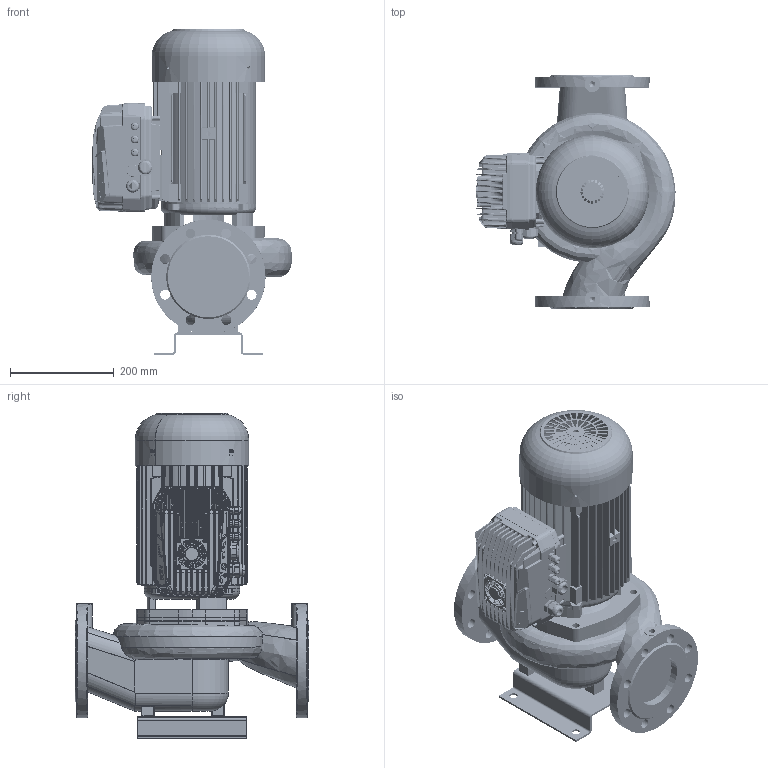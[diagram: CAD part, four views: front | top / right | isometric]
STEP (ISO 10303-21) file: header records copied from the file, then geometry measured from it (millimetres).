
FILE_DESCRIPTION(('STEP AP214'),'1');
FILE_NAME('export.stp','2022-09-07T07:03:24',(' '),(' '),'Spatial InterOp 3D',' ',' ');
FILE_SCHEMA(('AUTOMOTIVE_DESIGN { 1 0 10303 214 1 1 1 1 }'));
Length unit declared in the file: millimetre
Products named in the file (37): W_AL11022MD_KP112; V_TLL65AB80A1102; V_JALKA35973; V_PPAL1102; 440017; 440016; V_MKP112F19; 440015___; 440018; 440021; 480022; 480020; 480023; M25_Blind_Plug; M25_tiivisteholkk; MIDA_180deg; BASE_MIDA_NASTEC_89; 3005020100_AF0_157; PRT0001; PRT0002; PRT0003; PRT0005; PRT0006; PRT0007; V4-25--_-_U7687_PZ_AF0_5; V4-25--_-_U7687_PZ_AF1_5; V4-25--_-_U7687_PZ_AF2_5; V4-25--_-_U7687_PZ_AF3_5; V5-30--_-_U7687_PZ_AF0_5; V5-30--_-_U7687_PZ_AF1_5; V5-30--_-_U7687_PZ_AF2_5; V5-30--_-_U7687_PZ_5; 2001300200_32; TASTIERA_MIDA_2_44; ETICHETTA_MIDA_9; TAPPO_PRESSACAVO_M20_5; Mida205
Assembly tree (36 placements, depth 4):
  W_AL11022MD_KP112
    V_TLL65AB80A1102
    V_JALKA35973
    V_PPAL1102
    V_MKP112F19
      440017
        440016
      440015___
      440018
      440021
      480022
      480020
      480023
      M25_Blind_Plug
      M25_tiivisteholkk
    Mida205
      MIDA_180deg
        BASE_MIDA_NASTEC_89
        3005020100_AF0_157
        PRT0001
        PRT0002
        PRT0003
        PRT0005
        PRT0006
        PRT0007
        V4-25--_-_U7687_PZ_AF0_5
        V4-25--_-_U7687_PZ_AF1_5
        V4-25--_-_U7687_PZ_AF2_5
        V4-25--_-_U7687_PZ_AF3_5
        V5-30--_-_U7687_PZ_AF0_5
        V5-30--_-_U7687_PZ_AF1_5
        V5-30--_-_U7687_PZ_AF2_5
        V5-30--_-_U7687_PZ_5
        2001300200_32
        TASTIERA_MIDA_2_44
        ETICHETTA_MIDA_9
        TAPPO_PRESSACAVO_M20_5
Bounding box: 383 x 450 x 626.2 mm (x, y, z)
Volume: 3651402.3 mm3; surface area: 2744378.1 mm2
Topology: 31 solids, 32 shells, 5595 faces, 14820 edges, 9293 vertices
Faces by surface type: cylinder 2104, plane 1821, bspline 1154, cone 399, torus 109, offset 8
Entity records: 309789 total; most frequent: CARTESIAN_POINT 139280, ORIENTED_EDGE 29450, DIRECTION 21248, EDGE_CURVE 14729, VERTEX_POINT 9294, AXIS2_PLACEMENT_3D 7753, EDGE_LOOP 6138, STYLED_ITEM 5780
